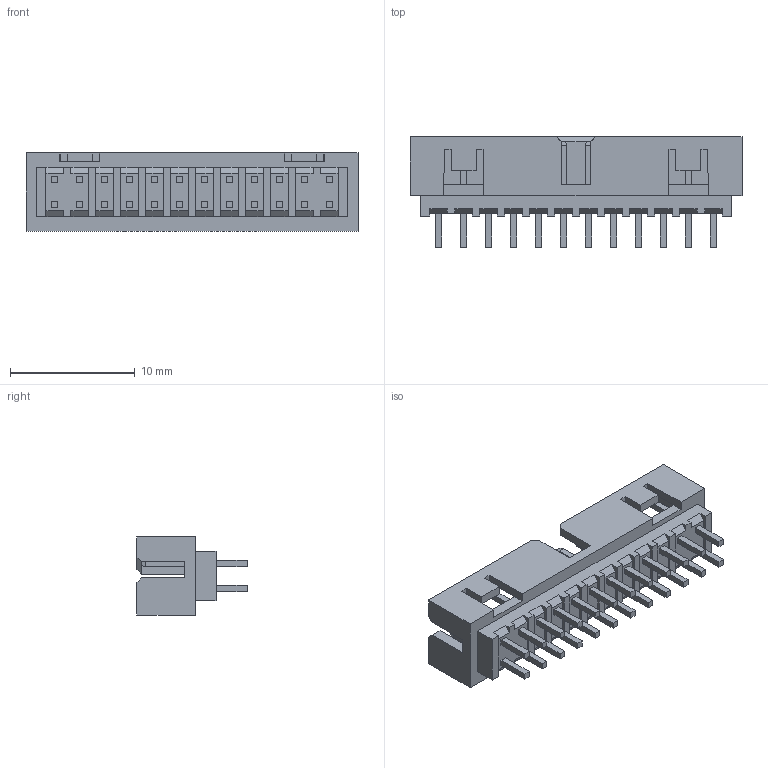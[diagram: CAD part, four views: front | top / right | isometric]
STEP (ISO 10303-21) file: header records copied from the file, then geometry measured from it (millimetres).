
FILE_DESCRIPTION (( 'STEP AP214' ), '1' );
FILE_NAME ('HC-JN200-2-12-Z-6.35-XX (潠籟2.00 邧齬 眻渀-HCTL).STEP', '2024-11-11T08:55:26', ( '' ), ( '' ), 'SwSTEP 2.0', 'SolidWorks 2022', '' );
FILE_SCHEMA (( 'AUTOMOTIVE_DESIGN' ));
Length unit declared in the file: millimetre
Products named in the file (1): HC-JN200-2-12-Z-6.35-XX (潠籟2.00 邧齬 眻渀-HCTL)
Bounding box: 26.6 x 8.85 x 6.25 mm (x, y, z)
Volume: 474.1 mm3; surface area: 1232.6 mm2
Topology: 1 solids, 1 shells, 528 faces, 1333 edges, 852 vertices
Faces by surface type: plane 528
Entity records: 19095 total; most frequent: CARTESIAN_POINT 2714, ORIENTED_EDGE 2666, DIRECTION 2391, LINE 1333, EDGE_CURVE 1333, VECTOR 1333, VERTEX_POINT 852, EDGE_LOOP 577
